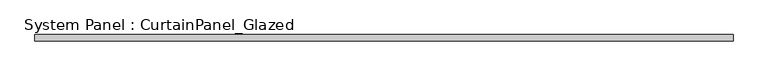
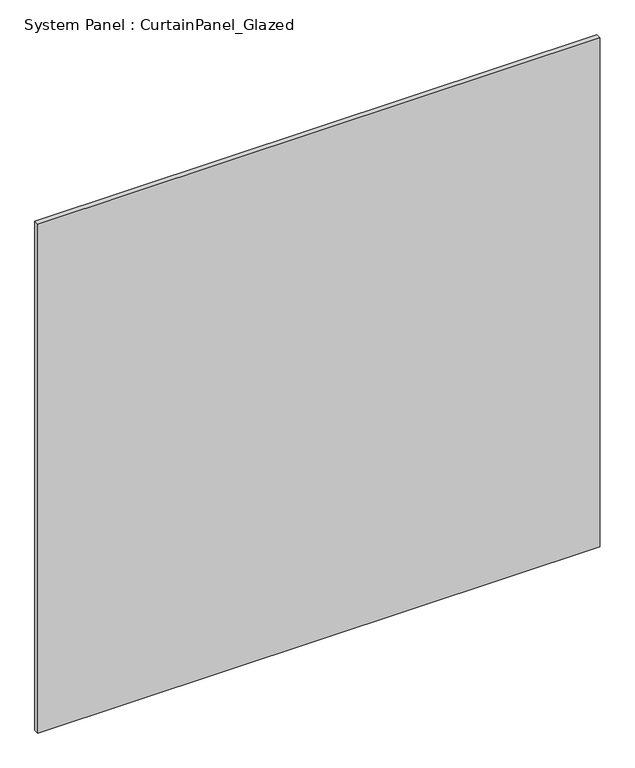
"""IFC4 building model written with IfcOpenShell, lengths in millimetres: plate geometry, System Panel : CurtainPanel_Glazed."""

from ifc_helpers import new_model, si_unit, origin, origin_with_axes, place, context, project, spatial, polyline, outline, extrude, source, transform, mapped, element, save


def system_panel_curtainpanel_glazed_9c2ad216(model_context):
    return source(origin(), model_context, "Body", "SweptSolid", [
        extrude(outline(polyline([(1332.3000001, -12.5), (-1332.3000001, -12.5), (-1332.3000001, 12.5), (1332.3000001, 12.5), (1332.3000001, -12.5)])), origin_with_axes(), (0.0, 0.0, 1.0), 2550.0),
    ])


if __name__ == "__main__":
    model = new_model("IFC4")
    model_context = context("Model", 3, world=origin())
    ifc_project = project(units=[si_unit("LENGTHUNIT", "METRE", prefix="MILLI")], contexts=[model_context])
    site = spatial("IfcSite", under=ifc_project)
    building = spatial("IfcBuilding", under=site)
    placement = place(None, origin())
    system_panel_curtainpanel_glazed_shape = system_panel_curtainpanel_glazed_9c2ad216(model_context)
    element("IfcPlate", 1, ObjectType="System Panel : CurtainPanel_Glazed", at=placement, inside=building, context=model_context, shape_type="MappedRepresentation", body=[
        mapped(system_panel_curtainpanel_glazed_shape, transform((0.0, 0.0, 0.0), x_axis=(1.0, 0.0, 0.0), y_axis=(0.0, 1.0, 0.0), z_axis=(0.0, 0.0, 1.0))),
    ])
    save(model, "model.ifc")
